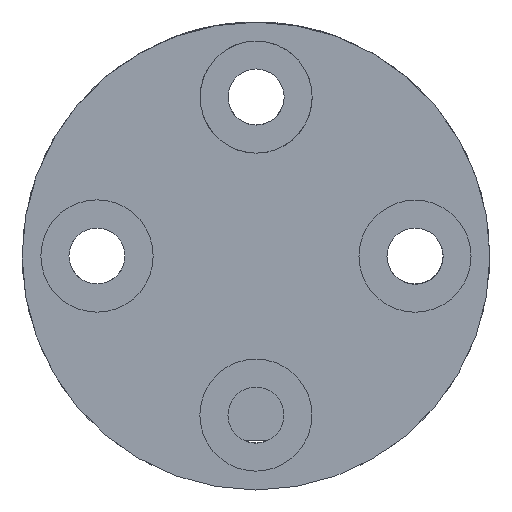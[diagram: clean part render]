
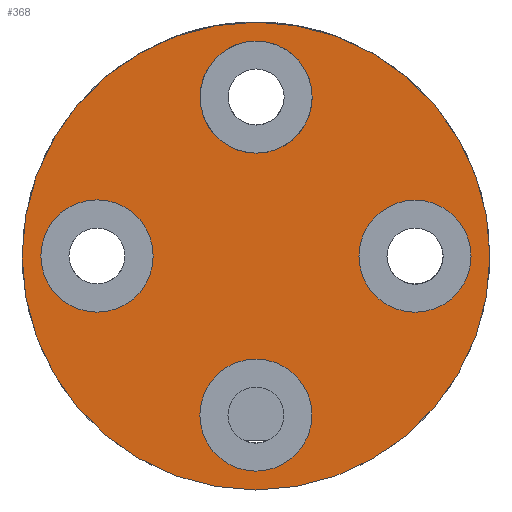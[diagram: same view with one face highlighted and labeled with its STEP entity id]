
A CAD part, front view. The second image highlights one B-rep face of the part: STEP entity #368.
In plain terms, the highlighted planar face has unit normal (0, -1, 0).
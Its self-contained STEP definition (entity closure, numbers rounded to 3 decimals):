
#215 = EDGE_CURVE ( 'NONE', #1702, #6654, #1504, .T. ) ;
#219 = EDGE_CURVE ( 'NONE', #6624, #1757, #1510, .T. ) ;
#223 = EDGE_CURVE ( 'NONE', #1778, #1758, #1516, .T. ) ;
#368 = ADVANCED_FACE ( 'NONE', ( #2829, #2838, #2840, #2842, #2827 ), #3195, .F. ) ;
#581 = EDGE_CURVE ( 'NONE', #1775, #1628, #2945, .T. ) ;
#595 = EDGE_CURVE ( 'NONE', #6613, #6696, #2961, .T. ) ;
#613 = EDGE_CURVE ( 'NONE', #6696, #6613, #2977, .T. ) ;
#618 = EDGE_CURVE ( 'NONE', #1628, #1775, #2984, .T. ) ;
#619 = EDGE_CURVE ( 'NONE', #1758, #1778, #2986, .T. ) ;
#620 = EDGE_CURVE ( 'NONE', #6654, #1702, #2987, .T. ) ;
#621 = EDGE_CURVE ( 'NONE', #1757, #6624, #2988, .T. ) ;
#963 = AXIS2_PLACEMENT_3D ( 'NONE', #2027, #2028, #2029 ) ;
#965 = AXIS2_PLACEMENT_3D ( 'NONE', #2037, #2038, #2039 ) ;
#967 = AXIS2_PLACEMENT_3D ( 'NONE', #2048, #2049, #2050 ) ;
#1150 = EDGE_LOOP ( 'NONE', ( #6103, #6115 ) ) ;
#1168 = EDGE_LOOP ( 'NONE', ( #6133, #6169 ) ) ;
#1169 = EDGE_LOOP ( 'NONE', ( #6142, #6101 ) ) ;
#1178 = EDGE_LOOP ( 'NONE', ( #6197, #6004 ) ) ;
#1189 = EDGE_LOOP ( 'NONE', ( #6027, #6033 ) ) ;
#1504 = CIRCLE ( 'NONE', #963, 2.995 ) ;
#1510 = CIRCLE ( 'NONE', #965, 2.995 ) ;
#1516 = CIRCLE ( 'NONE', #967, 3.001 ) ;
#1628 = VERTEX_POINT ( 'NONE', #5317 ) ;
#1702 = VERTEX_POINT ( 'NONE', #5370 ) ;
#1757 = VERTEX_POINT ( 'NONE', #5425 ) ;
#1758 = VERTEX_POINT ( 'NONE', #5426 ) ;
#1775 = VERTEX_POINT ( 'NONE', #5443 ) ;
#1778 = VERTEX_POINT ( 'NONE', #5446 ) ;
#2027 = CARTESIAN_POINT ( 'NONE',  ( 0., 0., -8.499 ) ) ;
#2028 = DIRECTION ( 'NONE',  ( 0., -1., 0. ) ) ;
#2029 = DIRECTION ( 'NONE',  ( 0., 0., -1. ) ) ;
#2037 = CARTESIAN_POINT ( 'NONE',  ( 8.499, 0., 0. ) ) ;
#2038 = DIRECTION ( 'NONE',  ( 0., -1., 0. ) ) ;
#2039 = DIRECTION ( 'NONE',  ( 0., 0., -1. ) ) ;
#2048 = CARTESIAN_POINT ( 'NONE',  ( -8.499, 0., 0. ) ) ;
#2049 = DIRECTION ( 'NONE',  ( 0., -1., 0. ) ) ;
#2050 = DIRECTION ( 'NONE',  ( 0., 0., -1. ) ) ;
#2827 = FACE_OUTER_BOUND ( 'NONE', #1178, .T. ) ;
#2829 = FACE_BOUND ( 'NONE', #1169, .T. ) ;
#2838 = FACE_BOUND ( 'NONE', #1189, .T. ) ;
#2840 = FACE_BOUND ( 'NONE', #1168, .T. ) ;
#2842 = FACE_BOUND ( 'NONE', #1150, .T. ) ;
#2945 = CIRCLE ( 'NONE', #3541, 2.997 ) ;
#2961 = CIRCLE ( 'NONE', #3546, 12.505 ) ;
#2977 = CIRCLE ( 'NONE', #3558, 12.505 ) ;
#2984 = CIRCLE ( 'NONE', #3563, 2.997 ) ;
#2986 = CIRCLE ( 'NONE', #3564, 3.001 ) ;
#2987 = CIRCLE ( 'NONE', #3565, 2.995 ) ;
#2988 = CIRCLE ( 'NONE', #3566, 2.995 ) ;
#3194 = CARTESIAN_POINT ( 'NONE',  ( 0., 0., 0. ) ) ;
#3195 = PLANE ( 'NONE',  #3495 ) ;
#3206 = DIRECTION ( 'NONE',  ( 0., 1., 0. ) ) ;
#3207 = DIRECTION ( 'NONE',  ( 0., 0., 1. ) ) ;
#3413 = CARTESIAN_POINT ( 'NONE',  ( 0., 0., 8.499 ) ) ;
#3415 = DIRECTION ( 'NONE',  ( 0., -1., 0. ) ) ;
#3416 = DIRECTION ( 'NONE',  ( 0., 0., -1. ) ) ;
#3495 = AXIS2_PLACEMENT_3D ( 'NONE', #3194, #3206, #3207 ) ;
#3541 = AXIS2_PLACEMENT_3D ( 'NONE', #3413, #3415, #3416 ) ;
#3546 = AXIS2_PLACEMENT_3D ( 'NONE', #3753, #3756, #3757 ) ;
#3558 = AXIS2_PLACEMENT_3D ( 'NONE', #3843, #3851, #3852 ) ;
#3563 = AXIS2_PLACEMENT_3D ( 'NONE', #3859, #3866, #3867 ) ;
#3564 = AXIS2_PLACEMENT_3D ( 'NONE', #3862, #3869, #3870 ) ;
#3565 = AXIS2_PLACEMENT_3D ( 'NONE', #3865, #3871, #3872 ) ;
#3566 = AXIS2_PLACEMENT_3D ( 'NONE', #3868, #3874, #3875 ) ;
#3753 = CARTESIAN_POINT ( 'NONE',  ( 0., 0., 0. ) ) ;
#3756 = DIRECTION ( 'NONE',  ( 0., 1., 0. ) ) ;
#3757 = DIRECTION ( 'NONE',  ( 0., 0., 1. ) ) ;
#3843 = CARTESIAN_POINT ( 'NONE',  ( 0., 0., 0. ) ) ;
#3851 = DIRECTION ( 'NONE',  ( 0., 1., 0. ) ) ;
#3852 = DIRECTION ( 'NONE',  ( 0., 0., 1. ) ) ;
#3859 = CARTESIAN_POINT ( 'NONE',  ( 0., 0., 8.499 ) ) ;
#3862 = CARTESIAN_POINT ( 'NONE',  ( -8.499, 0., 0. ) ) ;
#3865 = CARTESIAN_POINT ( 'NONE',  ( 0., 0., -8.499 ) ) ;
#3866 = DIRECTION ( 'NONE',  ( 0., -1., 0. ) ) ;
#3867 = DIRECTION ( 'NONE',  ( 0., 0., -1. ) ) ;
#3868 = CARTESIAN_POINT ( 'NONE',  ( 8.499, 0., 0. ) ) ;
#3869 = DIRECTION ( 'NONE',  ( 0., -1., 0. ) ) ;
#3870 = DIRECTION ( 'NONE',  ( 0., 0., -1. ) ) ;
#3871 = DIRECTION ( 'NONE',  ( 0., -1., 0. ) ) ;
#3872 = DIRECTION ( 'NONE',  ( 0., 0., -1. ) ) ;
#3874 = DIRECTION ( 'NONE',  ( 0., -1., 0. ) ) ;
#3875 = DIRECTION ( 'NONE',  ( 0., 0., -1. ) ) ;
#5317 = CARTESIAN_POINT ( 'NONE',  ( 0., 0., 5.502 ) ) ;
#5370 = CARTESIAN_POINT ( 'NONE',  ( 0., 0., -5.504 ) ) ;
#5425 = CARTESIAN_POINT ( 'NONE',  ( 8.499, 0., -2.995 ) ) ;
#5426 = CARTESIAN_POINT ( 'NONE',  ( -8.499, 0., -3.001 ) ) ;
#5443 = CARTESIAN_POINT ( 'NONE',  ( 0., 0., 11.496 ) ) ;
#5446 = CARTESIAN_POINT ( 'NONE',  ( -8.499, 0., 3.001 ) ) ;
#5462 = CARTESIAN_POINT ( 'NONE',  ( 0., 0., 12.505 ) ) ;
#5473 = CARTESIAN_POINT ( 'NONE',  ( 8.499, 0., 2.995 ) ) ;
#5503 = CARTESIAN_POINT ( 'NONE',  ( 0., 0., -11.495 ) ) ;
#5545 = CARTESIAN_POINT ( 'NONE',  ( 0., 0., -12.505 ) ) ;
#6004 = ORIENTED_EDGE ( 'NONE', *, *, #595, .F. ) ;
#6027 = ORIENTED_EDGE ( 'NONE', *, *, #621, .F. ) ;
#6033 = ORIENTED_EDGE ( 'NONE', *, *, #219, .F. ) ;
#6101 = ORIENTED_EDGE ( 'NONE', *, *, #215, .F. ) ;
#6103 = ORIENTED_EDGE ( 'NONE', *, *, #618, .F. ) ;
#6115 = ORIENTED_EDGE ( 'NONE', *, *, #581, .F. ) ;
#6133 = ORIENTED_EDGE ( 'NONE', *, *, #619, .F. ) ;
#6142 = ORIENTED_EDGE ( 'NONE', *, *, #620, .F. ) ;
#6169 = ORIENTED_EDGE ( 'NONE', *, *, #223, .F. ) ;
#6197 = ORIENTED_EDGE ( 'NONE', *, *, #613, .F. ) ;
#6613 = VERTEX_POINT ( 'NONE', #5462 ) ;
#6624 = VERTEX_POINT ( 'NONE', #5473 ) ;
#6654 = VERTEX_POINT ( 'NONE', #5503 ) ;
#6696 = VERTEX_POINT ( 'NONE', #5545 ) ;
